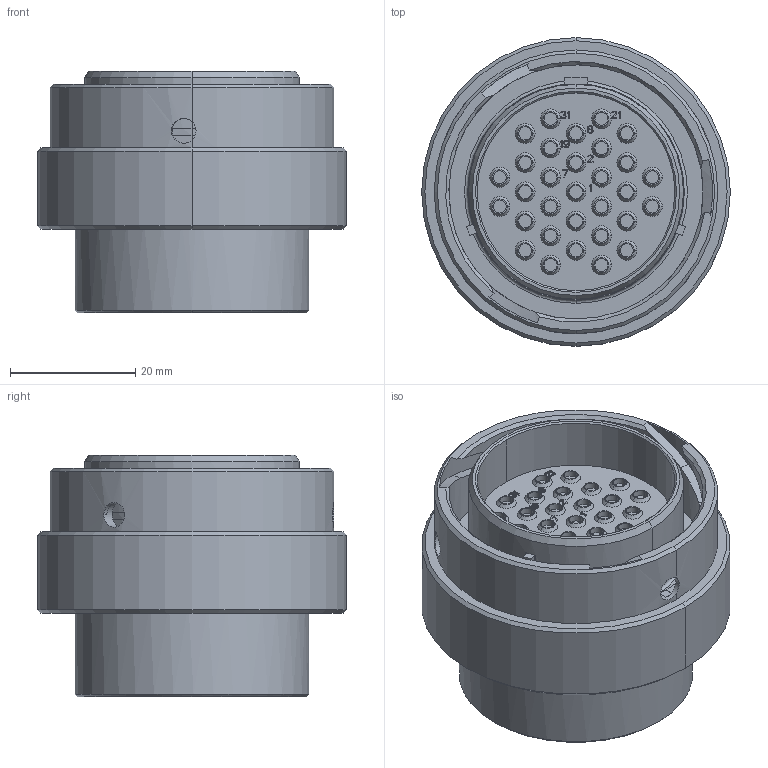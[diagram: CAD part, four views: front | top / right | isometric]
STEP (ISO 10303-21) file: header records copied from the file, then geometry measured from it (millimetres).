
FILE_DESCRIPTION((''),'2;1');
FILE_NAME('C-HD36-24-31PE','2013-05-15T',('workeradm'),('Tyco Electronics Ltd.'),'PRO/ENGINEER BY PARAMETRIC TECHNOLOGY CORPORATION, 2011490','PRO/ENGINEER BY PARAMETRIC TECHNOLOGY CORPORATION, 2011490','');
FILE_SCHEMA(('AUTOMOTIVE_DESIGN { 1 0 10303 214 1 1 1 1 }'));
Length unit declared in the file: millimetre
Products named in the file (1): C-HD36-24-31PE
Bounding box: 49.33 x 49.33 x 38.61 mm (x, y, z)
Volume: 44048.1 mm3; surface area: 14498.8 mm2
Topology: 1 solids, 1 shells, 859 faces, 2050 edges, 1336 vertices
Faces by surface type: plane 442, cylinder 234, cone 79, torus 64, bspline 34, extrusion 6
Entity records: 27291 total; most frequent: CARTESIAN_POINT 6632, DIRECTION 4292, ORIENTED_EDGE 4100, EDGE_CURVE 2050, AXIS2_PLACEMENT_3D 1539, VERTEX_POINT 1336, VECTOR 1214, LINE 1208
